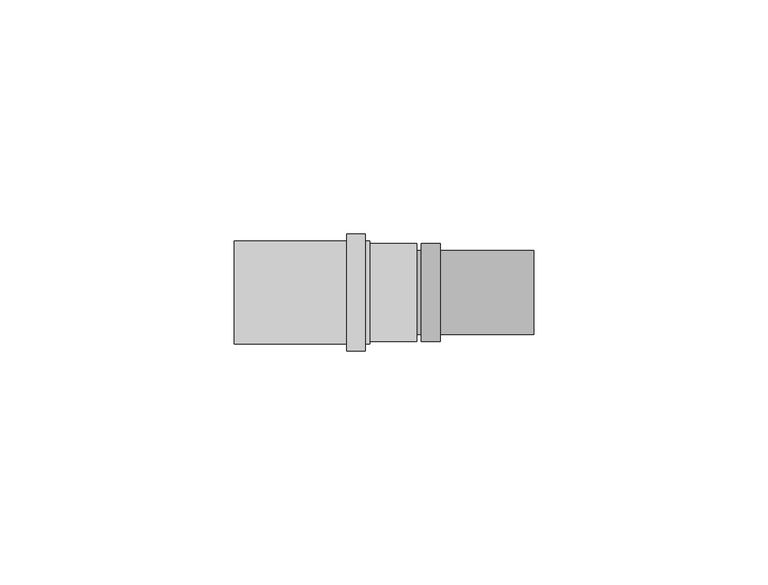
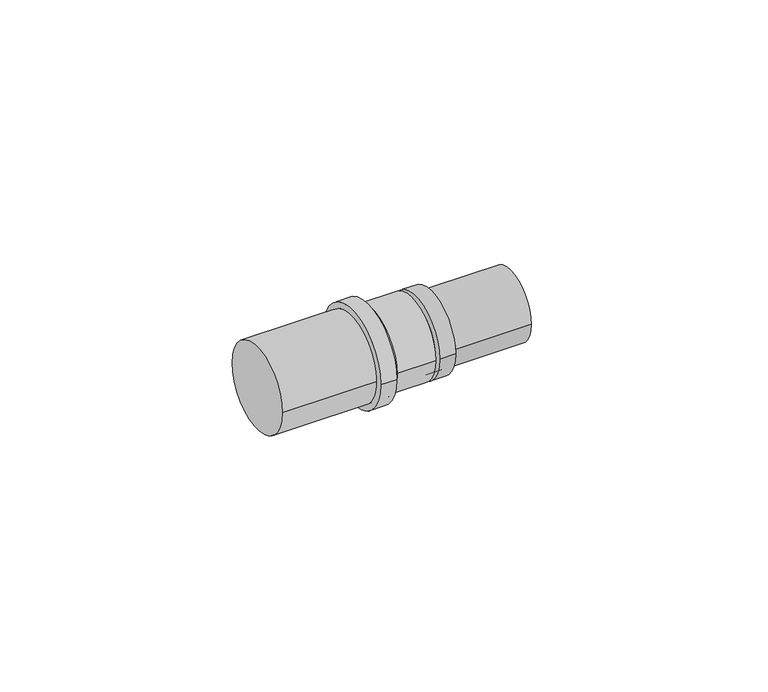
"""IFC4 building model written with IfcOpenShell, lengths in millimetres: pipe fitting geometry, COMAP - SKINPRESS ppsu - Manchon_Réduit_9240W : Manchon_Réduit_9240W."""

import ifcopenshell
import ifcopenshell.guid

model = None  # the IFC model being written
_history = None  # IfcOwnerHistory: only IFC2X3 demands one
_inside = {}  # id of a spatial element -> (the spatial element, [elements in it])
_under = {}  # id of a project, library or spatial element -> (it, [spatial elements below it])
_declared = {}  # id of a project -> (the project, [libraries it declares])
_typed = {}  # id of a type object -> (the type object, [elements of that type])
_made_of = {}  # id of a material, layer set ... -> (it, [elements and type objects made of it])


def new_model(schema):
    """Start an empty IFC model of exactly this schema.

    Asked for "IFC4X3", IfcOpenShell would pick the latest addendum, in which some entities
    have other attributes; the version numbers below select the first issue.
    IFC2X3 requires an IfcOwnerHistory on every rooted entity: one is made here for all.
    """
    global model, _history
    if schema == "IFC4X3":
        model = ifcopenshell.file(schema_version=(4, 3, 0, 0))
    else:
        model = ifcopenshell.file(schema=schema)
    _inside.clear()
    _under.clear()
    _declared.clear()
    _typed.clear()
    _made_of.clear()
    _history = None
    if model.schema == "IFC2X3":
        org = make("IfcOrganization", Name="unknown")
        user = make(
            "IfcPersonAndOrganization",
            ThePerson=make("IfcPerson", FamilyName="unknown"),
            TheOrganization=org,
        )
        app = make(
            "IfcApplication",
            ApplicationDeveloper=org,
            Version="unknown",
            ApplicationFullName="unknown",
            ApplicationIdentifier="unknown",
        )
        _history = make(
            "IfcOwnerHistory",
            OwningUser=user,
            OwningApplication=app,
            ChangeAction="ADDED",
            CreationDate=0,
        )
    return model


def make(cls, **values):
    """One entity of the class cls with the attributes given. An attribute that is None is left unset."""
    return model.create_entity(
        cls, **{name: value for name, value in values.items() if value is not None}
    )


def rooted(cls, **values):
    """An entity with a GlobalId (a new one), such as an element, a storey or a relation."""
    return make(cls, GlobalId=ifcopenshell.guid.new(), OwnerHistory=_history, **values)


def si_unit(unit_type, name, prefix=None):
    """IfcSIUnit, for example si_unit("LENGTHUNIT", "METRE", prefix="MILLI")."""
    return make("IfcSIUnit", UnitType=unit_type, Prefix=prefix, Name=name)


def assignment(units):
    """IfcUnitAssignment: the units of a project."""
    return None if units is None else make("IfcUnitAssignment", Units=units)


def point(xyz):
    """IfcCartesianPoint."""
    return None if xyz is None else make("IfcCartesianPoint", Coordinates=xyz)


def direction(xyz):
    """IfcDirection."""
    return None if xyz is None else make("IfcDirection", DirectionRatios=xyz)


def frame(location, z_axis=None, x_axis=None):
    """IfcAxis2Placement3D, a coordinate frame: its origin and axes. An axis left out is left unset."""
    return make(
        "IfcAxis2Placement3D",
        Location=point(location),
        Axis=direction(z_axis),
        RefDirection=direction(x_axis),
    )


def frame_2d(location, x_axis=None):
    """IfcAxis2Placement2D, a coordinate frame in the plane: its origin and x axis."""
    return make(
        "IfcAxis2Placement2D", Location=point(location), RefDirection=direction(x_axis)
    )


def origin():
    """The frame at (0, 0, 0) with its axes left unset."""
    return frame((0.0, 0.0, 0.0))


def origin_2d():
    """The frame at (0, 0) in the plane with its x axis left unset."""
    return frame_2d((0.0, 0.0))


def place(relative_to, where):
    """IfcLocalPlacement: puts the frame where relative to a parent placement (None: the world)."""
    return make(
        "IfcLocalPlacement", PlacementRelTo=relative_to, RelativePlacement=where
    )


def context(
    kind, dimensions, precision=None, world=None, true_north=None, identifier=None
):
    """IfcGeometricRepresentationContext, for example the 3D "Model" context."""
    return make(
        "IfcGeometricRepresentationContext",
        ContextIdentifier=identifier,
        ContextType=kind,
        CoordinateSpaceDimension=dimensions,
        Precision=precision,
        WorldCoordinateSystem=world,
        TrueNorth=true_north,
    )


def project(units=None, contexts=None):
    """IfcProject with its units and contexts."""
    return rooted(
        "IfcProject",
        Name="project",
        RepresentationContexts=contexts,
        UnitsInContext=assignment(units),
    )


def spatial(cls, under=None, at=None, **own):
    """A site, building, storey or space (cls), placed at a placement, below another one or the project."""
    s = rooted(cls, ObjectPlacement=at, **own)
    if under is not None:
        _under.setdefault(under.id(), (under, []))[1].append(s)
    return s


def circle_curve(where, radius):
    """IfcCircle in the frame where."""
    return make("IfcCircle", Position=where, Radius=radius)


def trimmed(basis, trim1, trim2, sense, master):
    """IfcTrimmedCurve: the piece of a basis curve between two trims."""
    return make(
        "IfcTrimmedCurve",
        BasisCurve=basis,
        Trim1=trim1,
        Trim2=trim2,
        SenseAgreement=sense,
        MasterRepresentation=master,
    )


def segment(curve, same_sense, transition):
    """IfcCompositeCurveSegment."""
    return make(
        "IfcCompositeCurveSegment",
        Transition=transition,
        SameSense=same_sense,
        ParentCurve=curve,
    )


def composite_curve(segments, self_intersect=None):
    """IfcCompositeCurve: segments joined end to end."""
    return make("IfcCompositeCurve", Segments=segments, SelfIntersect=self_intersect)


def outline(outer, holes=None, kind="AREA"):
    """IfcArbitraryClosedProfileDef: a profile drawn as a closed curve; with holes, ...WithVoids."""
    if holes is None:
        return make("IfcArbitraryClosedProfileDef", ProfileType=kind, OuterCurve=outer)
    return make(
        "IfcArbitraryProfileDefWithVoids",
        ProfileType=kind,
        OuterCurve=outer,
        InnerCurves=holes,
    )


def extrude(swept, where, along, depth):
    """IfcExtrudedAreaSolid: the profile swept, set in the frame where, extruded along a direction by depth."""
    return make(
        "IfcExtrudedAreaSolid",
        SweptArea=swept,
        Position=where,
        ExtrudedDirection=direction(along),
        Depth=depth,
    )


def shape(context_of_items, identifier, shape_type, items):
    """IfcShapeRepresentation: the items that make up one representation, for example the "Body"."""
    return make(
        "IfcShapeRepresentation",
        ContextOfItems=context_of_items,
        RepresentationIdentifier=identifier,
        RepresentationType=shape_type,
        Items=items,
    )


def source(mapping_origin, context_of_items, identifier, shape_type, items):
    """IfcRepresentationMap: a shape defined once, which mapped items show again and again."""
    return make(
        "IfcRepresentationMap",
        MappingOrigin=mapping_origin,
        MappedRepresentation=shape(context_of_items, identifier, shape_type, items),
    )


def transform(
    local_origin,
    x_axis=None,
    y_axis=None,
    z_axis=None,
    scale=None,
    scale2=None,
    scale3=None,
    uniform=True,
):
    """IfcCartesianTransformationOperator3D, or its non-uniform kind. x_axis, y_axis, z_axis: its Axis1, 2, 3."""
    if uniform:
        return make(
            "IfcCartesianTransformationOperator3D",
            Axis1=direction(x_axis),
            Axis2=direction(y_axis),
            LocalOrigin=point(local_origin),
            Scale=scale,
            Axis3=direction(z_axis),
        )
    return make(
        "IfcCartesianTransformationOperator3DnonUniform",
        Axis1=direction(x_axis),
        Axis2=direction(y_axis),
        LocalOrigin=point(local_origin),
        Scale=scale,
        Axis3=direction(z_axis),
        Scale2=scale2,
        Scale3=scale3,
    )


def mapped(mapping_source, mapping_target):
    """IfcMappedItem: shows the shape of a source again, moved by a transform."""
    return make(
        "IfcMappedItem", MappingSource=mapping_source, MappingTarget=mapping_target
    )


def made_of(thing, what):
    """Note that an element or type object is made of a material, layer set ...; save() writes the relation."""
    if what is not None:
        _made_of.setdefault(what.id(), (what, []))[1].append(thing)
    return thing


def element(
    cls,
    number,
    at=None,
    inside=None,
    cuts=None,
    type_object=None,
    material=None,
    context=None,
    identifier="Body",
    shape_type=None,
    held_by="IfcProductDefinitionShape",
    body=None,
    shapes=None,
    **own,
):
    """One element of the class cls, such as IfcWall. Its Tag is "e" and its number.

    at: its placement. inside: the storey or other place that contains it. cuts: it is an
    opening in that element (IfcRelVoidsElement). A single representation is given by context,
    identifier, shape_type and body (its items); several are given by shapes. held_by: the class
    of the entity that holds the representations. save() writes the other relations.
    """
    e = rooted(cls, Tag="e%d" % number, ObjectPlacement=at, **own)
    if body is not None:
        shapes = [shape(context, identifier, shape_type, body)]
    if shapes is not None:
        e.Representation = make(held_by, Representations=shapes)
    if inside is not None:
        _inside.setdefault(inside.id(), (inside, []))[1].append(e)
    if cuts is not None:
        rooted(
            "IfcRelVoidsElement", RelatingBuildingElement=cuts, RelatedOpeningElement=e
        )
    if type_object is not None:
        _typed.setdefault(type_object.id(), (type_object, []))[1].append(e)
    return made_of(e, material)


def aggregate(whole, parts):
    """IfcRelAggregates: a whole, such as a stair, and the parts it consists of."""
    return rooted("IfcRelAggregates", RelatingObject=whole, RelatedObjects=parts)


def save(model, path):
    """Write the relations noted so far, then the file.

    IfcRelAggregates (storeys below a building ...), IfcRelContainedInSpatialStructure (elements
    in a storey), IfcRelDefinesByType, IfcRelAssociatesMaterial and IfcRelDeclares: one each for
    every whole, place, type object, material and project.
    """
    for whole, parts in _under.values():
        aggregate(whole, parts)
    for where, things in _inside.values():
        rooted(
            "IfcRelContainedInSpatialStructure",
            RelatedElements=things,
            RelatingStructure=where,
        )
    for kind, things in _typed.values():
        rooted("IfcRelDefinesByType", RelatedObjects=things, RelatingType=kind)
    for what, things in _made_of.values():
        rooted("IfcRelAssociatesMaterial", RelatedObjects=things, RelatingMaterial=what)
    for by, libraries in _declared.values():
        rooted("IfcRelDeclares", RelatingContext=by, RelatedDefinitions=libraries)
    model.write(path)


def pipe_fitting_81543596(model_context):
    return source(origin(), model_context, "Body", "SweptSolid", [
        extrude(outline(composite_curve([segment(trimmed(circle_curve(origin_2d(), 12.5), [point((-12.5, 0.0))], [point((12.5, 0.0))], False, "CARTESIAN"), True, "CONTINUOUS"), segment(trimmed(circle_curve(origin_2d(), 12.5), [point((12.5, 0.0))], [point((-12.5, 0.0))], False, "CARTESIAN"), True, "CONTINUOUS")], self_intersect=False)), frame((-10.0, 0.0, 0.0), z_axis=(1.0, 0.0, 0.0), x_axis=(0.0, 1.0, 0.0)), (0.0, 0.0, 1.0), 4.0),
        extrude(outline(composite_curve([segment(trimmed(circle_curve(origin_2d(), 11.0), [point((-11.0, 0.0))], [point((11.0, 0.0))], False, "CARTESIAN"), True, "CONTINUOUS"), segment(trimmed(circle_curve(origin_2d(), 11.0), [point((11.0, 0.0))], [point((-11.0, 0.0))], False, "CARTESIAN"), True, "CONTINUOUS")], self_intersect=False)), frame((-34.0, 0.0, 0.0), z_axis=(1.0, 0.0, 0.0), x_axis=(0.0, 1.0, 0.0)), (0.0, 0.0, 1.0), 29.0),
        extrude(outline(composite_curve([segment(trimmed(circle_curve(origin_2d(), 10.5), [point((10.5, 0.0))], [point((-10.5, 0.0))], False, "CARTESIAN"), True, "CONTINUOUS"), segment(trimmed(circle_curve(origin_2d(), 10.5), [point((-10.5, 0.0))], [point((10.5, 0.0))], False, "CARTESIAN"), True, "CONTINUOUS")], self_intersect=False)), frame((6.0, 0.0, 0.0), z_axis=(1.0, 0.0, 0.0), x_axis=(0.0, 1.0, 0.0)), (0.0, 0.0, 1.0), 4.0),
        extrude(outline(composite_curve([segment(trimmed(circle_curve(origin_2d(), 9.0), [point((9.0, 0.0))], [point((-9.0, 0.0))], False, "CARTESIAN"), True, "CONTINUOUS"), segment(trimmed(circle_curve(origin_2d(), 9.0), [point((-9.0, 0.0))], [point((9.0, 0.0))], False, "CARTESIAN"), True, "CONTINUOUS")], self_intersect=False)), frame((5.0, 0.0, 0.0), z_axis=(1.0, 0.0, 0.0), x_axis=(0.0, 1.0, 0.0)), (0.0, 0.0, 1.0), 25.0),
        extrude(outline(composite_curve([segment(trimmed(circle_curve(origin_2d(), 10.5), [point((-10.5, 0.0))], [point((10.5, 0.0))], False, "CARTESIAN"), True, "CONTINUOUS"), segment(trimmed(circle_curve(origin_2d(), 10.5), [point((10.5, 0.0))], [point((-10.5, 0.0))], False, "CARTESIAN"), True, "CONTINUOUS")], self_intersect=False)), frame((-5.0, 0.0, 0.0), z_axis=(1.0, 0.0, 0.0), x_axis=(0.0, 1.0, 0.0)), (0.0, 0.0, 1.0), 10.0),
    ])


if __name__ == "__main__":
    model = new_model("IFC4")
    model_context = context("Model", 3, world=origin())
    ifc_project = project(units=[si_unit("LENGTHUNIT", "METRE", prefix="MILLI")], contexts=[model_context])
    site = spatial("IfcSite", under=ifc_project)
    building = spatial("IfcBuilding", under=site)
    placement = place(None, origin())
    pipe_fitting_shape = pipe_fitting_81543596(model_context)
    element("IfcPipeFitting", 1, ObjectType="COMAP - SKINPRESS ppsu - Manchon_Réduit_9240W : Manchon_Réduit_9240W", at=placement, inside=building, context=model_context, shape_type="MappedRepresentation", body=[
        mapped(pipe_fitting_shape, transform((0.0, 0.0, 0.0), x_axis=(1.0, 0.0, 0.0), y_axis=(0.0, 1.0, 0.0), z_axis=(0.0, 0.0, 1.0))),
    ])
    save(model, "model.ifc")
